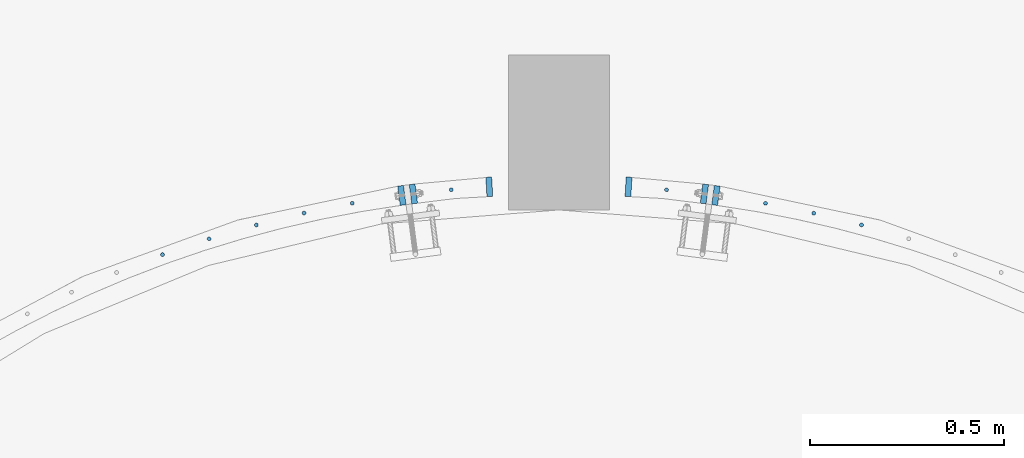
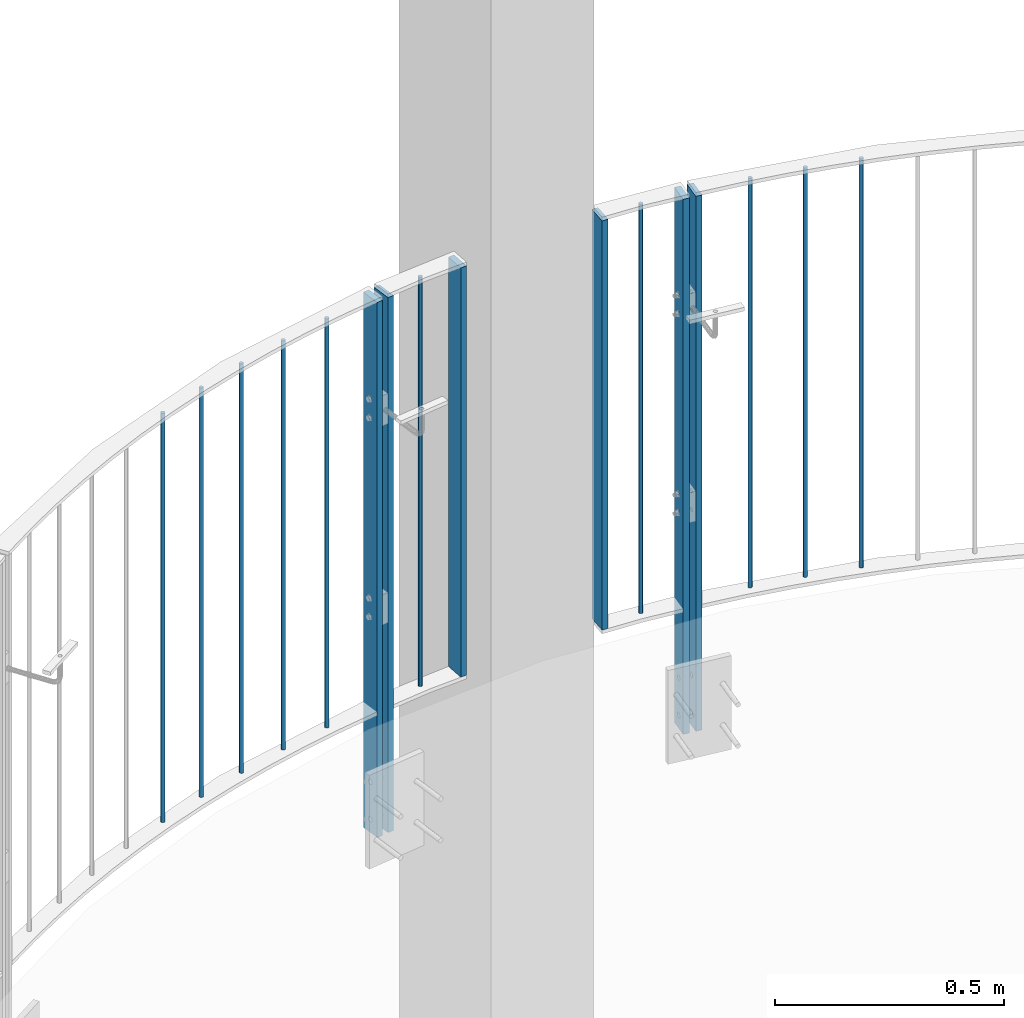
# One storey, part 73 of 296: 16 columns, 24 openings.
"""IFC2X3 building model written with IfcOpenShell, lengths in millimetres."""

from ifc_helpers import new_model, entity, si_unit, converted_unit, frame, frame_2d, origin, origin_with_axes, origin_2d, place, context, project, spatial, rectangle, circle, extrude, material, element, save


model = new_model("IFC2X3")

# Units and contexts
model_context = context("Model", 3, precision=1e-09, world=origin_with_axes())
ifc_project = project(units=[si_unit("LENGTHUNIT", "METRE", prefix="MILLI"), si_unit("AREAUNIT", "SQUARE_METRE"), si_unit("VOLUMEUNIT", "CUBIC_METRE"), converted_unit("PLANEANGLEUNIT", "DEGREE", entity("IfcPlaneAngleMeasure", 0.01745329), si_unit("PLANEANGLEUNIT", "RADIAN"), dimensions=[0, 0, 0, 0, 0, 0, 0])], contexts=[model_context])

# Site, building, storey
site_placement = place(None, origin_with_axes())
site = spatial("IfcSite", under=ifc_project, at=site_placement, Name="TZD-S?d | Treppenhausgel?nder", CompositionType="ELEMENT")
building_placement = place(site_placement, origin_with_axes())
building = spatial("IfcBuilding", under=site, at=building_placement, Name="Struktur 1", CompositionType="ELEMENT")
storey_placement = place(building_placement, origin_with_axes())
storey = spatial("IfcBuildingStorey", under=building, at=storey_placement, Name="Default Storey", CompositionType="ELEMENT", Elevation=0.0)

# Columns
ifc_material = material(Name="S235JR")
for number, where, z_axis, x_axis in (
    (1, (3705.629638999, 2786.294675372, 11725.0), (0.0, 0.0, -1.0), (-0.766044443, 0.64278761, 0.0)),
    (2, (3582.399315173, 2816.831044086, 11725.0), (0.0, 0.0, -1.0), (-0.766044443, 0.64278761, 0.0)),
    (3, (3457.983775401, 2842.108622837, 11725.0), (0.0, 0.0, -1.0), (-0.766044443, 0.64278761, 0.0)),
    (4, (3202.68123547, 2877.077951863, 11725.0), (0.0, 0.0, -1.0), (0.0, 1.0, 0.0)),
):
    element("IfcColumn", number, at=place(None, frame(where, z_axis=z_axis, x_axis=x_axis)), inside=storey, material=ifc_material, Name="-", ObjectType="-", context=model_context, shape_type="SweptSolid", body=[
        extrude(circle(Radius=5.0, at=origin_2d()), origin(), (0.0, 0.0, -1.0), 1090.0),
    ])
column_1_placement = place(None, frame((3104.604004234, 2884.610301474, 12815.0), z_axis=(0.0, 0.0, -1.0), x_axis=(0.998341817, -0.057564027, 0.0)))
element("IfcColumn", 5, at=column_1_placement, inside=storey, material=ifc_material, Name="-", ObjectType="-", context=model_context, shape_type="SweptSolid", body=[
    extrude(rectangle(XDim=15.0, YDim=50.0, at=origin_2d()), origin(), (0.0, 0.0, 1.0), 1090.0),
])

# Column, openings
column_2_placement = place(None, frame((3300.401641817, 2866.378028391, 11390.001), z_axis=(0.0, 0.0, 1.0), x_axis=(0.991444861, -0.130526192, 0.0)))
column_2 = element("IfcColumn", 6, at=column_2_placement, inside=storey, material=ifc_material, Name="-", ObjectType="-", context=model_context, shape_type="SweptSolid", body=[
    extrude(rectangle(XDim=15.0, YDim=50.0, at=origin_2d()), origin(), (0.0, 0.0, 1.0), 1424.999),
])
opening_1_placement = place(column_2_placement, frame((-8.0, 5.001, 1154.999999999), z_axis=(-1.0, 0.0, 0.0), x_axis=(0.0, -1.0, 0.0)))
element("IfcOpeningElement", 7, at=opening_1_placement, cuts=column_2, ObjectType="Opening", context=model_context, shape_type="SweptSolid", body=[
    extrude(circle(Radius=5.001, at=frame_2d((5.001, 0.0), x_axis=(1.0, 0.0))), origin(), (0.0, 0.0, -1.0), 16.0),
])
opening_2_placement = place(column_2_placement, frame((-8.0, 5.001, 1104.999999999), z_axis=(-1.0, 0.0, 0.0), x_axis=(0.0, -1.0, 0.0)))
element("IfcOpeningElement", 8, at=opening_2_placement, cuts=column_2, ObjectType="Opening", context=model_context, shape_type="SweptSolid", body=[
    extrude(circle(Radius=5.001, at=frame_2d((5.001, 0.0), x_axis=(1.0, 0.0))), origin(), (0.0, 0.0, -1.0), 16.0),
])
opening_3_placement = place(column_2_placement, frame((-8.0, 7.001, 135.0), z_axis=(-1.0, 0.0, 0.0), x_axis=(0.0, -1.0, 0.0)))
element("IfcOpeningElement", 9, at=opening_3_placement, cuts=column_2, ObjectType="Opening", context=model_context, shape_type="SweptSolid", body=[
    extrude(circle(Radius=7.001, at=frame_2d((7.001, 0.0), x_axis=(1.0, 0.0))), origin(), (0.0, 0.0, -1.0), 16.0),
])
opening_4_placement = place(column_2_placement, frame((-8.0, 7.001, 35.0), z_axis=(-1.0, 0.0, 0.0), x_axis=(0.0, -1.0, 0.0)))
element("IfcOpeningElement", 10, at=opening_4_placement, cuts=column_2, ObjectType="Opening", context=model_context, shape_type="SweptSolid", body=[
    extrude(circle(Radius=7.001, at=frame_2d((7.001, 0.0), x_axis=(1.0, 0.0))), origin(), (0.0, 0.0, -1.0), 16.0),
])
opening_5_placement = place(column_2_placement, frame((-8.0, 5.001, 624.999999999), z_axis=(-1.0, 0.0, 0.0), x_axis=(0.0, -1.0, 0.0)))
element("IfcOpeningElement", 11, at=opening_5_placement, cuts=column_2, ObjectType="Opening", context=model_context, shape_type="SweptSolid", body=[
    extrude(circle(Radius=5.001, at=frame_2d((5.001, 0.0), x_axis=(1.0, 0.0))), origin(), (0.0, 0.0, -1.0), 16.0),
])
opening_6_placement = place(column_2_placement, frame((-8.0, 5.001, 574.999999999), z_axis=(-1.0, 0.0, 0.0), x_axis=(0.0, -1.0, 0.0)))
element("IfcOpeningElement", 12, at=opening_6_placement, cuts=column_2, ObjectType="Opening", context=model_context, shape_type="SweptSolid", body=[
    extrude(circle(Radius=5.001, at=frame_2d((5.001, 0.0), x_axis=(1.0, 0.0))), origin(), (0.0, 0.0, -1.0), 16.0),
])

column_3_placement = place(None, frame((3330.144987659, 2862.462242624, 11390.001), z_axis=(0.0, 0.0, -1.0), x_axis=(-0.991444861, 0.130526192, 0.0)))
column_3 = element("IfcColumn", 13, at=column_3_placement, inside=storey, material=ifc_material, Name="-", ObjectType="-", context=model_context, shape_type="SweptSolid", body=[
    extrude(rectangle(XDim=15.0, YDim=50.0, at=origin_2d()), origin(), (0.0, 0.0, -1.0), 1424.999),
])
opening_7_placement = place(column_3_placement, frame((8.0, 5.001, -624.999999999), z_axis=(1.0, 0.0, 0.0), x_axis=(0.0, 1.0, 0.0)))
element("IfcOpeningElement", 14, at=opening_7_placement, cuts=column_3, ObjectType="Opening", context=model_context, shape_type="SweptSolid", body=[
    extrude(circle(Radius=5.001, at=frame_2d((-5.001, 0.0), x_axis=(1.0, 0.0))), origin(), (0.0, 0.0, -1.0), 16.0),
])
opening_8_placement = place(column_3_placement, frame((8.0, 5.001, -574.999999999), z_axis=(1.0, 0.0, 0.0), x_axis=(0.0, 1.0, 0.0)))
element("IfcOpeningElement", 15, at=opening_8_placement, cuts=column_3, ObjectType="Opening", context=model_context, shape_type="SweptSolid", body=[
    extrude(circle(Radius=5.001, at=frame_2d((-5.001, 0.0), x_axis=(1.0, 0.0))), origin(), (0.0, 0.0, -1.0), 16.0),
])
opening_9_placement = place(column_3_placement, frame((8.0, 5.001, -1154.999999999), z_axis=(1.0, 0.0, 0.0), x_axis=(0.0, 1.0, 0.0)))
element("IfcOpeningElement", 16, at=opening_9_placement, cuts=column_3, ObjectType="Opening", context=model_context, shape_type="SweptSolid", body=[
    extrude(circle(Radius=5.001, at=frame_2d((-5.001, 0.0), x_axis=(1.0, 0.0))), origin(), (0.0, 0.0, -1.0), 16.0),
])
opening_10_placement = place(column_3_placement, frame((8.0, 5.001, -1104.999999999), z_axis=(1.0, 0.0, 0.0), x_axis=(0.0, 1.0, 0.0)))
element("IfcOpeningElement", 17, at=opening_10_placement, cuts=column_3, ObjectType="Opening", context=model_context, shape_type="SweptSolid", body=[
    extrude(circle(Radius=5.001, at=frame_2d((-5.001, 0.0), x_axis=(1.0, 0.0))), origin(), (0.0, 0.0, -1.0), 16.0),
])
opening_11_placement = place(column_3_placement, frame((8.0, 7.001, -135.0), z_axis=(1.0, 0.0, 0.0), x_axis=(0.0, 1.0, 0.0)))
element("IfcOpeningElement", 18, at=opening_11_placement, cuts=column_3, ObjectType="Opening", context=model_context, shape_type="SweptSolid", body=[
    extrude(circle(Radius=7.001, at=frame_2d((-7.001, 0.0), x_axis=(1.0, 0.0))), origin(), (0.0, 0.0, -1.0), 16.0),
])
opening_12_placement = place(column_3_placement, frame((8.0, 7.001, -35.0), z_axis=(1.0, 0.0, 0.0), x_axis=(0.0, 1.0, 0.0)))
element("IfcOpeningElement", 19, at=opening_12_placement, cuts=column_3, ObjectType="Opening", context=model_context, shape_type="SweptSolid", body=[
    extrude(circle(Radius=7.001, at=frame_2d((-7.001, 0.0), x_axis=(1.0, 0.0))), origin(), (0.0, 0.0, -1.0), 16.0),
])

column_4_placement = place(None, frame((2549.598358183, 2866.378028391, 11390.001), z_axis=(0.0, 0.0, -1.0), x_axis=(-0.991444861, -0.130526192, 0.0)))
column_4 = element("IfcColumn", 20, at=column_4_placement, inside=storey, material=ifc_material, Name="-", ObjectType="-", context=model_context, shape_type="SweptSolid", body=[
    extrude(rectangle(XDim=15.0, YDim=50.0, at=origin_2d()), origin(), (0.0, 0.0, -1.0), 1424.999),
])
opening_13_placement = place(column_4_placement, frame((-8.0, 0.0, -1129.999999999), z_axis=(1.0, 0.0, 0.0), x_axis=(0.0, -1.0, 0.0)))
element("IfcOpeningElement", 21, at=opening_13_placement, cuts=column_4, ObjectType="Opening", context=model_context, shape_type="SweptSolid", body=[
    extrude(circle(Radius=5.001, at=frame_2d((0.0, 25.0), x_axis=(1.0, 0.0))), origin(), (0.0, 0.0, 1.0), 16.0),
])
opening_14_placement = place(column_4_placement, frame((-8.0, 0.0, -1129.999999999), z_axis=(1.0, 0.0, 0.0), x_axis=(0.0, -1.0, 0.0)))
element("IfcOpeningElement", 22, at=opening_14_placement, cuts=column_4, ObjectType="Opening", context=model_context, shape_type="SweptSolid", body=[
    extrude(circle(Radius=5.001, at=frame_2d((0.0, -25.0), x_axis=(1.0, 0.0))), origin(), (0.0, 0.0, 1.0), 16.0),
])
opening_15_placement = place(column_4_placement, frame((-8.0, 0.0, -599.999999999), z_axis=(1.0, 0.0, 0.0), x_axis=(0.0, -1.0, 0.0)))
element("IfcOpeningElement", 23, at=opening_15_placement, cuts=column_4, ObjectType="Opening", context=model_context, shape_type="SweptSolid", body=[
    extrude(circle(Radius=5.001, at=frame_2d((0.0, 25.0), x_axis=(1.0, 0.0))), origin(), (0.0, 0.0, 1.0), 16.0),
])
opening_16_placement = place(column_4_placement, frame((-8.0, 0.0, -599.999999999), z_axis=(1.0, 0.0, 0.0), x_axis=(0.0, -1.0, 0.0)))
element("IfcOpeningElement", 24, at=opening_16_placement, cuts=column_4, ObjectType="Opening", context=model_context, shape_type="SweptSolid", body=[
    extrude(circle(Radius=5.001, at=frame_2d((0.0, -25.0), x_axis=(1.0, 0.0))), origin(), (0.0, 0.0, 1.0), 16.0),
])
opening_17_placement = place(column_4_placement, frame((-8.0, 0.0, -85.0), z_axis=(1.0, 0.0, 0.0), x_axis=(0.0, -1.0, 0.0)))
element("IfcOpeningElement", 25, at=opening_17_placement, cuts=column_4, ObjectType="Opening", context=model_context, shape_type="SweptSolid", body=[
    extrude(circle(Radius=7.001, at=frame_2d((0.0, 50.0), x_axis=(1.0, 0.0))), origin(), (0.0, 0.0, 1.0), 16.0),
])
opening_18_placement = place(column_4_placement, frame((-8.0, 0.0, -85.0), z_axis=(1.0, 0.0, 0.0), x_axis=(0.0, -1.0, 0.0)))
element("IfcOpeningElement", 26, at=opening_18_placement, cuts=column_4, ObjectType="Opening", context=model_context, shape_type="SweptSolid", body=[
    extrude(circle(Radius=7.001, at=frame_2d((0.0, -50.0), x_axis=(1.0, 0.0))), origin(), (0.0, 0.0, 1.0), 16.0),
])

column_5_placement = place(None, frame((2519.855012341, 2862.462242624, 11390.001), z_axis=(0.0, 0.0, 1.0), x_axis=(0.991444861, 0.130526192, 0.0)))
column_5 = element("IfcColumn", 27, at=column_5_placement, inside=storey, material=ifc_material, Name="-", ObjectType="-", context=model_context, shape_type="SweptSolid", body=[
    extrude(rectangle(XDim=15.0, YDim=50.0, at=origin_2d()), origin(), (0.0, 0.0, 1.0), 1424.999),
])
opening_19_placement = place(column_5_placement, frame((8.0, 0.0, 1129.999999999), z_axis=(-1.0, 0.0, 0.0), x_axis=(0.0, -1.0, 0.0)))
element("IfcOpeningElement", 28, at=opening_19_placement, cuts=column_5, ObjectType="Opening", context=model_context, shape_type="SweptSolid", body=[
    extrude(circle(Radius=5.001, at=frame_2d((0.0, 25.0), x_axis=(1.0, 0.0))), origin(), (0.0, 0.0, 1.0), 16.0),
])
opening_20_placement = place(column_5_placement, frame((8.0, 0.0, 1129.999999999), z_axis=(-1.0, 0.0, 0.0), x_axis=(0.0, -1.0, 0.0)))
element("IfcOpeningElement", 29, at=opening_20_placement, cuts=column_5, ObjectType="Opening", context=model_context, shape_type="SweptSolid", body=[
    extrude(circle(Radius=5.001, at=frame_2d((0.0, -25.0), x_axis=(1.0, 0.0))), origin(), (0.0, 0.0, 1.0), 16.0),
])
opening_21_placement = place(column_5_placement, frame((8.0, 0.0, 85.0), z_axis=(-1.0, 0.0, 0.0), x_axis=(0.0, -1.0, 0.0)))
element("IfcOpeningElement", 30, at=opening_21_placement, cuts=column_5, ObjectType="Opening", context=model_context, shape_type="SweptSolid", body=[
    extrude(circle(Radius=7.001, at=frame_2d((0.0, 50.0), x_axis=(1.0, 0.0))), origin(), (0.0, 0.0, 1.0), 16.0),
])
opening_22_placement = place(column_5_placement, frame((8.0, 0.0, 85.0), z_axis=(-1.0, 0.0, 0.0), x_axis=(0.0, -1.0, 0.0)))
element("IfcOpeningElement", 31, at=opening_22_placement, cuts=column_5, ObjectType="Opening", context=model_context, shape_type="SweptSolid", body=[
    extrude(circle(Radius=7.001, at=frame_2d((0.0, -50.0), x_axis=(1.0, 0.0))), origin(), (0.0, 0.0, 1.0), 16.0),
])
opening_23_placement = place(column_5_placement, frame((8.0, 0.0, 599.999999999), z_axis=(-1.0, 0.0, 0.0), x_axis=(0.0, -1.0, 0.0)))
element("IfcOpeningElement", 32, at=opening_23_placement, cuts=column_5, ObjectType="Opening", context=model_context, shape_type="SweptSolid", body=[
    extrude(circle(Radius=5.001, at=frame_2d((0.0, 25.0), x_axis=(1.0, 0.0))), origin(), (0.0, 0.0, 1.0), 16.0),
])
opening_24_placement = place(column_5_placement, frame((8.0, 0.0, 599.999999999), z_axis=(-1.0, 0.0, 0.0), x_axis=(0.0, -1.0, 0.0)))
element("IfcOpeningElement", 33, at=opening_24_placement, cuts=column_5, ObjectType="Opening", context=model_context, shape_type="SweptSolid", body=[
    extrude(circle(Radius=5.001, at=frame_2d((0.0, -25.0), x_axis=(1.0, 0.0))), origin(), (0.0, 0.0, 1.0), 16.0),
])

# Columns
for number, where, z_axis, x_axis in (
    (34, (2647.31876453, 2877.077951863, 11725.0), (0.0, 0.0, 1.0), (0.0, 1.0, 0.0)),
    (35, (2267.600684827, 2816.831044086, 11725.0), (0.0, 0.0, 1.0), (0.766044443, 0.64278761, 0.0)),
    (36, (2392.016224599, 2842.108622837, 11725.0), (0.0, 0.0, 1.0), (0.766044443, 0.64278761, 0.0)),
    (37, (1902.351515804, 2709.675167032, 11725.0), (0.0, 0.0, 1.0), (0.766044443, 0.64278761, 0.0)),
    (38, (2022.547426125, 2750.554570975, 11725.0), (0.0, 0.0, 1.0), (0.766044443, 0.64278761, 0.0)),
    (39, (2144.370361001, 2786.294675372, 11725.0), (0.0, 0.0, 1.0), (0.766044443, 0.64278761, 0.0)),
):
    element("IfcColumn", number, at=place(None, frame(where, z_axis=z_axis, x_axis=x_axis)), inside=storey, material=ifc_material, Name="-", ObjectType="-", context=model_context, shape_type="SweptSolid", body=[
        extrude(circle(Radius=5.0, at=origin_2d()), origin(), (0.0, 0.0, 1.0), 1090.0),
    ])
column_6_placement = place(None, frame((2745.395995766, 2884.610301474, 12815.0), z_axis=(0.0, 0.0, 1.0), x_axis=(-0.998341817, -0.057564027, 0.0)))
element("IfcColumn", 40, at=column_6_placement, inside=storey, material=ifc_material, Name="-", ObjectType="-", context=model_context, shape_type="SweptSolid", body=[
    extrude(rectangle(XDim=15.0, YDim=50.0, at=origin_2d()), origin(), (0.0, 0.0, -1.0), 1090.0),
])

save(model, "model.ifc")
